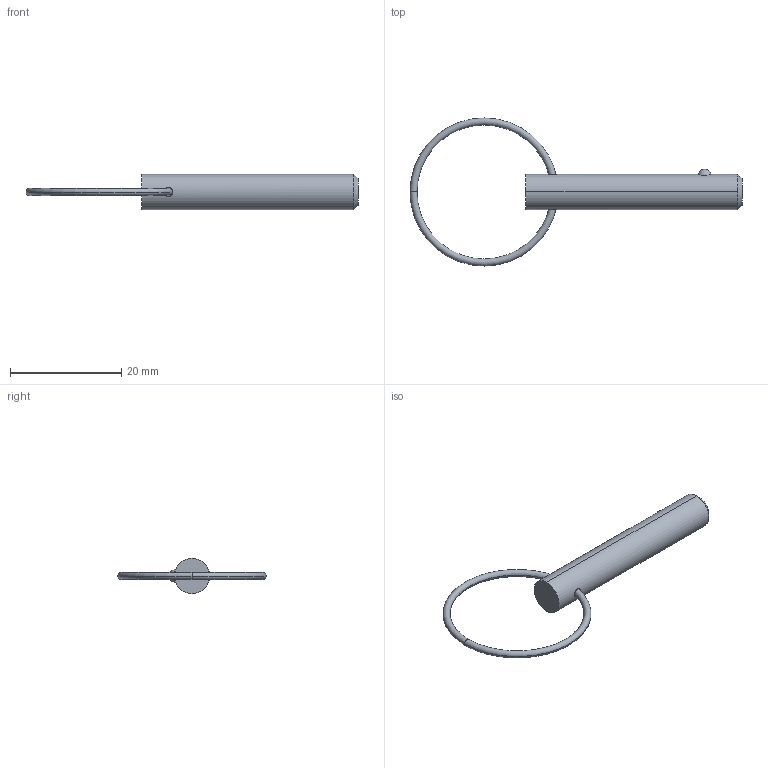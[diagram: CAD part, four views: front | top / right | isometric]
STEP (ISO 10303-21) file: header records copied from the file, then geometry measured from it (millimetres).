
FILE_DESCRIPTION (( 'STEP AP203' ), '1' );
FILE_NAME ('33012.W2510.step', '2024-11-01T14:06:54', ( '' ), ( '' ), 'SwSTEP 2.0', 'SolidWorks 2019', '' );
FILE_SCHEMA (( 'CONFIG_CONTROL_DESIGN' ));
Length unit declared in the file: millimetre
Products named in the file (3): Part2_33012.W2510; Part1_33012.W2510; 33012.W2510
Assembly tree (2 placements, depth 2):
  33012.W2510
    Part1_33012.W2510
    Part2_33012.W2510
Bounding box: 59.77 x 26.67 x 6.35 mm (x, y, z)
Volume: 1317.6 mm3; surface area: 1178.5 mm2
Topology: 2 solids, 2 shells, 16 faces, 31 edges, 18 vertices
Faces by surface type: torus 8, sphere 2, cone 2, cylinder 2, plane 2
Entity records: 811 total; most frequent: CARTESIAN_POINT 168, DIRECTION 88, ORIENTED_EDGE 62, AXIS2_PLACEMENT_3D 42, EDGE_CURVE 31, PERSON_AND_ORGANIZATION 26, CIRCLE 21, DATE_AND_TIME 19
